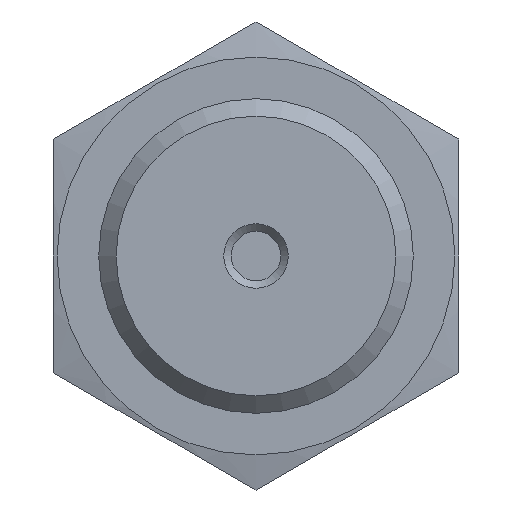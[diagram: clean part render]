
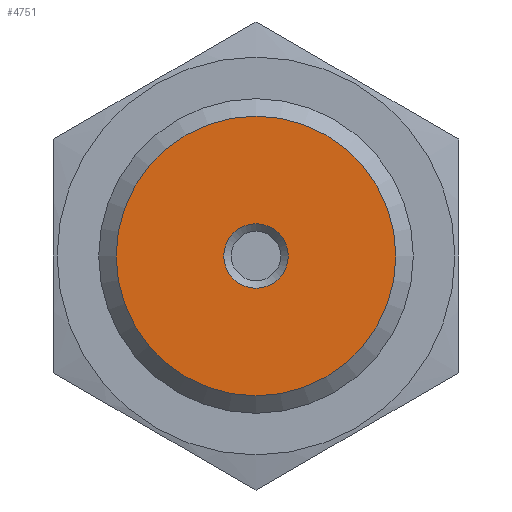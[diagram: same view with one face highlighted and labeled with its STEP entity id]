
A CAD part, left-side view. The second image highlights one B-rep face of the part: STEP entity #4751.
In plain terms, the highlighted planar face has unit normal (-1, 0, 0).
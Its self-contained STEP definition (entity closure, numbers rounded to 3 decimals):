
#155=FACE_BOUND('',#1352,.T.);
#1069=FACE_OUTER_BOUND('',#1351,.T.);
#1351=EDGE_LOOP('',(#3037));
#1352=EDGE_LOOP('',(#3038));
#1698=CIRCLE('',#5069,2.15);
#1702=CIRCLE('',#5075,9.316);
#1906=VERTEX_POINT('',#6830);
#1910=VERTEX_POINT('',#6842);
#2345=EDGE_CURVE('',#1906,#1906,#1698,.T.);
#2351=EDGE_CURVE('',#1910,#1910,#1702,.T.);
#3037=ORIENTED_EDGE('',*,*,#2351,.F.);
#3038=ORIENTED_EDGE('',*,*,#2345,.F.);
#4313=PLANE('',#5074);
#4751=ADVANCED_FACE('',(#1069,#155),#4313,.T.);
#5069=AXIS2_PLACEMENT_3D('',#6831,#5539,#5540);
#5074=AXIS2_PLACEMENT_3D('',#6841,#5551,#5552);
#5075=AXIS2_PLACEMENT_3D('',#6843,#5553,#5554);
#5539=DIRECTION('center_axis',(-1.,0.,0.));
#5540=DIRECTION('ref_axis',(0.,-1.,0.));
#5551=DIRECTION('center_axis',(-1.,0.,0.));
#5552=DIRECTION('ref_axis',(0.,0.,1.));
#5553=DIRECTION('center_axis',(1.,0.,0.));
#5554=DIRECTION('ref_axis',(0.,-1.,0.));
#6830=CARTESIAN_POINT('',(-3.,2.15,0.));
#6831=CARTESIAN_POINT('Origin',(-3.,0.,0.));
#6841=CARTESIAN_POINT('Origin',(-3.,6.064,0.));
#6842=CARTESIAN_POINT('',(-3.,9.316,0.));
#6843=CARTESIAN_POINT('Origin',(-3.,0.,0.));
